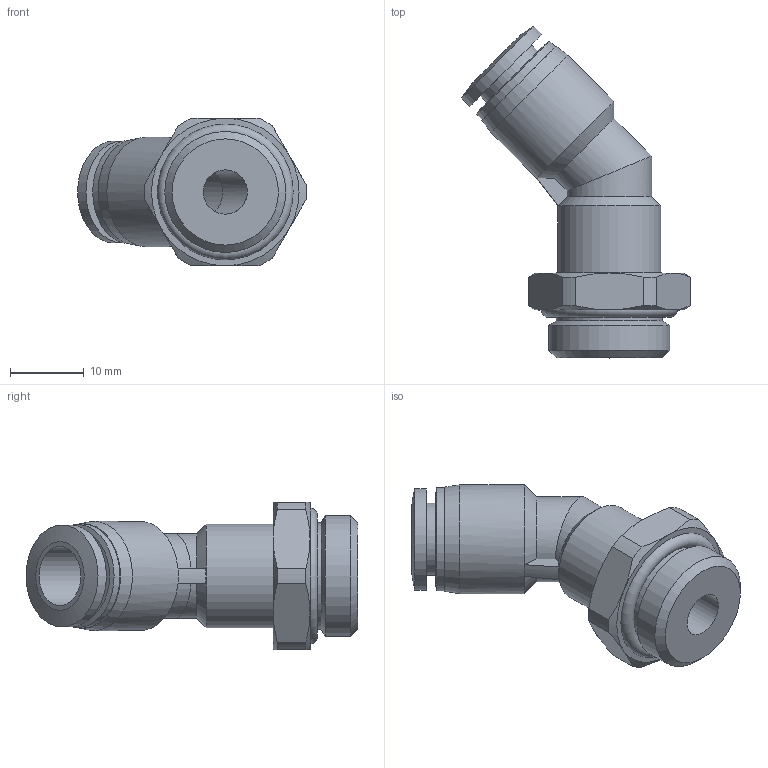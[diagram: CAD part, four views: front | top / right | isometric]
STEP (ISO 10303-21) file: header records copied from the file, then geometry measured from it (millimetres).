
FILE_DESCRIPTION(/* description */ (''),/* implementation_level */ '2;1');
FILE_NAME(/* name */ 'D:\CDC pneumatics\inventor\PL 45\G 나사\PL 45 08-G03.stp',/* time_stamp */ '2015-11-18T08:51:04+09:00',/* author */ ('DIAMOND'),/* organization */ (''),/* preprocessor_version */ 'ST-DEVELOPER v15.6',/* originating_system */ 'Autodesk Inventor 2015',/* authorisation */ '');
FILE_SCHEMA (('AUTOMOTIVE_DESIGN { 1 0 10303 214 3 1 1 }'));
Length unit declared in the file: millimetre
Products named in the file (1): PL 45 08-G03
Bounding box: 31.01 x 45 x 20 mm (x, y, z)
Volume: 6360.4 mm3; surface area: 4054.6 mm2
Topology: 1 solids, 1 shells, 59 faces, 129 edges, 78 vertices
Faces by surface type: cone 22, plane 18, cylinder 18, torus 1
Full cylindrical faces by diameter (mm): 6 x2, 8 x1, 9.8 x1, 11.5 x2, 13.8 x1, 14 x2, 14.4 x1, 14.8 x1, 16.4 x1
Entity records: 1504 total; most frequent: CARTESIAN_POINT 291, DIRECTION 266, ORIENTED_EDGE 222, AXIS2_PLACEMENT_3D 121, EDGE_CURVE 109, EDGE_LOOP 83, VERTEX_POINT 74, FACE_OUTER_BOUND 59
